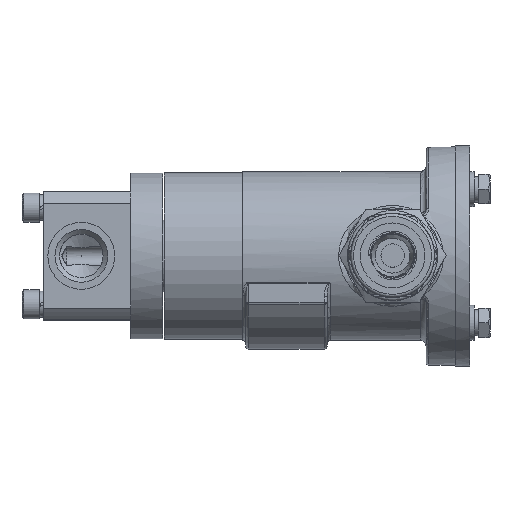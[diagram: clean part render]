
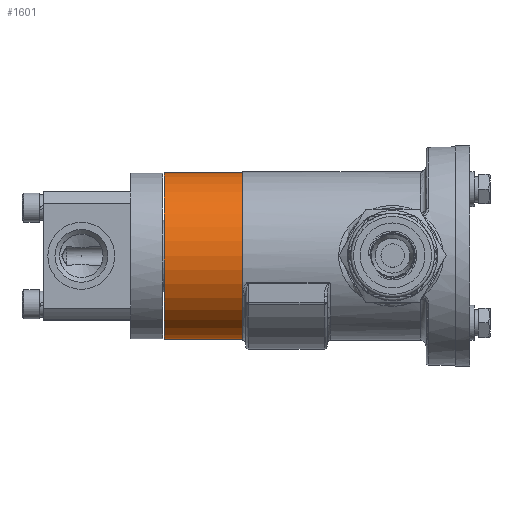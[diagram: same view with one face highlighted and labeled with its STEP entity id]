
A CAD part, top view. The second image highlights one B-rep face of the part: STEP entity #1601.
In plain terms, the highlighted cylindrical face has radius 28.75 mm (diameter 57.5 mm), a full revolution.
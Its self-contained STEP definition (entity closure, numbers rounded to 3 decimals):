
#1601=ADVANCED_FACE('',(#13818,#13820),#13822,.T.);
#13818=FACE_OUTER_BOUND('',#13819,.T.);
#13819=EDGE_LOOP('',(#26830));
#13820=FACE_OUTER_BOUND('',#13821,.T.);
#13821=EDGE_LOOP('',(#26831));
#13822=CYLINDRICAL_SURFACE('',#13823,28.75);
#13823=AXIS2_PLACEMENT_3D('',#13824,#13825,#13826);
#13824=CARTESIAN_POINT('',(55.5,0.,0.));
#13825=DIRECTION('',(-1.,0.,0.));
#13826=DIRECTION('',(0.,0.,1.));
#26830=ORIENTED_EDGE('',*,*,#34591,.T.);
#26831=ORIENTED_EDGE('',*,*,#34526,.F.);
#34526=EDGE_CURVE('',#38189,#38189,#38190,.T.);
#34591=EDGE_CURVE('',#38298,#38298,#38299,.T.);
#38189=VERTEX_POINT('',#46395);
#38190=CIRCLE('',#46396,28.75);
#38298=VERTEX_POINT('',#46645);
#38299=CIRCLE('',#46646,28.75);
#46395=CARTESIAN_POINT('',(28.5,0.,28.75));
#46396=AXIS2_PLACEMENT_3D('',#46397,#46398,#46399);
#46397=CARTESIAN_POINT('',(28.5,0.,0.));
#46398=DIRECTION('',(-1.,0.,0.));
#46399=DIRECTION('',(0.,0.,1.));
#46645=CARTESIAN_POINT('',(55.5,0.,28.75));
#46646=AXIS2_PLACEMENT_3D('',#46647,#46648,#46649);
#46647=CARTESIAN_POINT('',(55.5,0.,0.));
#46648=DIRECTION('',(-1.,0.,0.));
#46649=DIRECTION('',(0.,0.,1.));
